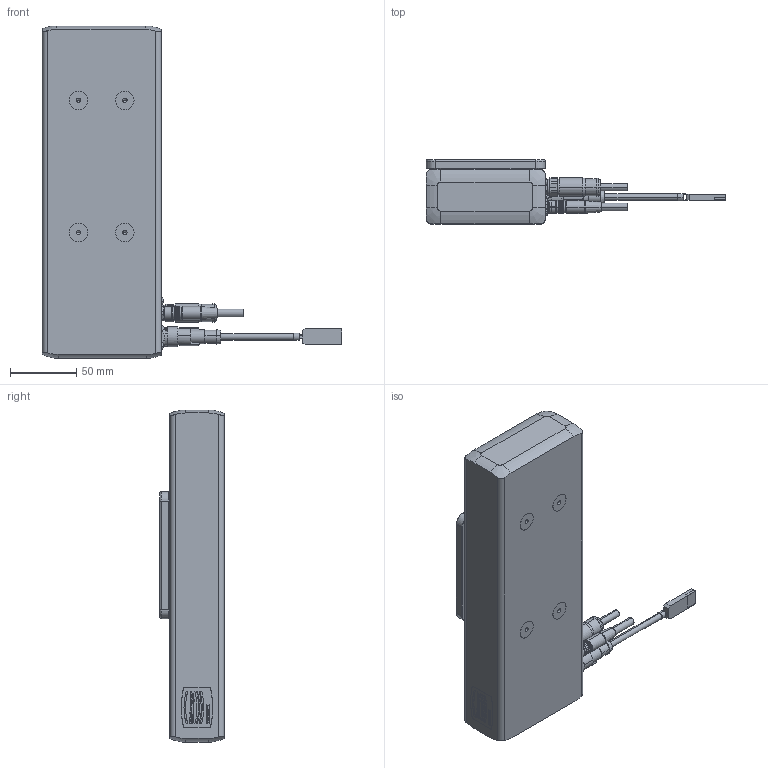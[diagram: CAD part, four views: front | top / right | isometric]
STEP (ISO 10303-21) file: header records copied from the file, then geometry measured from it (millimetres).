
FILE_DESCRIPTION((''),'2;1');
FILE_NAME('WEB_LTP90-50_ASM','2018-06-28T',('de_pablo'),(''),'PRO/ENGINEER BY PARAMETRIC TECHNOLOGY CORPORATION, 2015280','PRO/ENGINEER BY PARAMETRIC TECHNOLOGY CORPORATION, 2015280','');
FILE_SCHEMA(('AUTOMOTIVE_DESIGN { 1 0 10303 214 1 1 1 1 }'));
Products named in the file (15): GRUNDKOERPER_50; SCHIEBER_; 789000_010_10_LOGO_30X24X1; SLOTBLECH; SCHIEBERPLATTE; 9974058_EBST_CONEC_1424233; 997XXXX_SENSORKABEL_SAC; 9974062_MUTTER_M12X1_M_FASE; 9974061_M12-MINI-USB_1440711; 9973261_KABEL_VS_FSDB_IP20SDA; 9972972_STECKER_09-3403-00-03; 997XXXX_KUPPLG_M8X1_D14_SW13; ISO7380_LINSENKOPF_M3X6; D912M4L10V1_A2; WEB_LTP90-50_ASM
Assembly tree (20 placements, depth 2):
  WEB_LTP90-50_ASM
    GRUNDKOERPER_50
    SCHIEBER_
    789000_010_10_LOGO_30X24X1
    SLOTBLECH
    SCHIEBERPLATTE
    9974058_EBST_CONEC_1424233
    997XXXX_SENSORKABEL_SAC
    9974062_MUTTER_M12X1_M_FASE
    9974061_M12-MINI-USB_1440711
    9973261_KABEL_VS_FSDB_IP20SDA
    9972972_STECKER_09-3403-00-03
    997XXXX_KUPPLG_M8X1_D14_SW13
    ISO7380_LINSENKOPF_M3X6  x4
    D912M4L10V1_A2  x4
Bounding box: 226.5 x 48.5 x 251 mm (x, y, z)
Volume: 880048.8 mm3; surface area: 157492.5 mm2
Topology: 20 solids, 20 shells, 2043 faces, 5308 edges, 3406 vertices
Faces by surface type: plane 835, cylinder 620, extrusion 272, cone 167, bspline 93, torus 48, sphere 8
Entity records: 92745 total; most frequent: CARTESIAN_POINT 22866, ORIENTED_EDGE 10120, DIRECTION 8986, PRESENTATION_STYLE_ASSIGNMENT 5096, EDGE_CURVE 5060, STYLED_ITEM 4053, CURVE_STYLE 4011, VERTEX_POINT 3274
